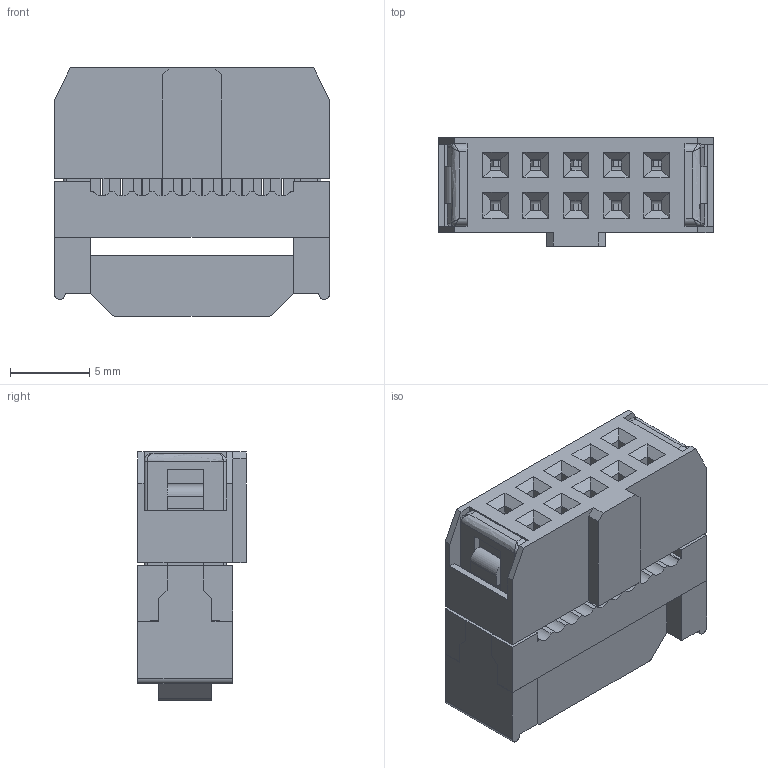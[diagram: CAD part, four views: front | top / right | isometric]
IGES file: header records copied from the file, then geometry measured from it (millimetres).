
Global section: file name: Filename.iges; native system: Open CASCADE 7.3; preprocessor: Open CASCADE IGES processor 7.3; date: 20201209.080523; units: millimetre
Bounding box: 17.38 x 6.86 x 15.7 mm (x, y, z)
Surface area: 2404.5 mm2 (no closed solid volume)
Topology: 0 solids, 0 shells, 751 faces, 4170 edges, 4162 vertices
Faces by surface type: plane 569, revolution 170, extrusion 8, bspline 4
